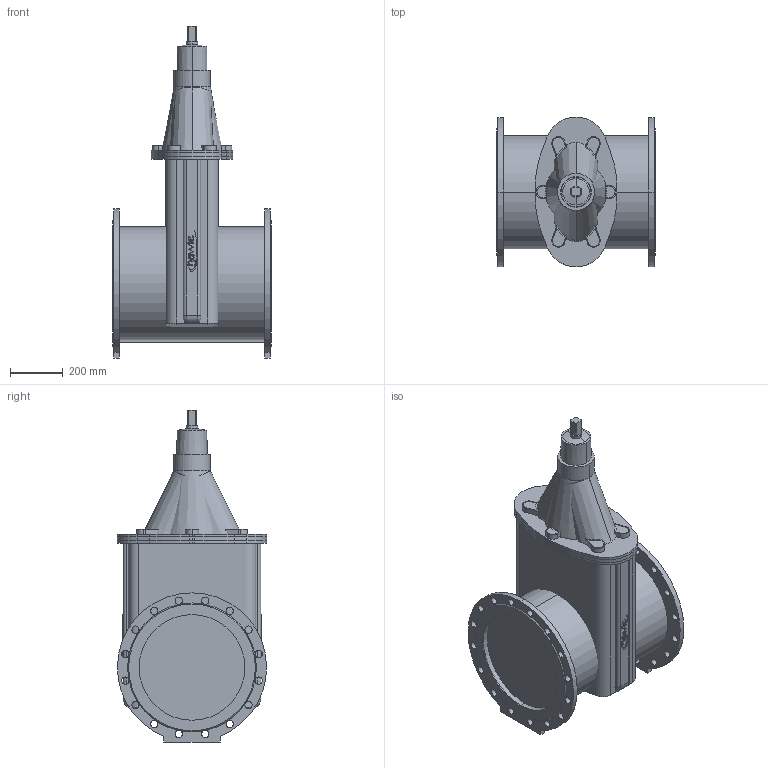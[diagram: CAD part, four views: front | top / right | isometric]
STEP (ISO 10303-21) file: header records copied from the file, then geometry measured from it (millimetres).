
FILE_DESCRIPTION(('STEP AP214'),'1');
FILE_NAME('S:/EK/USER/CAT6/3DHomepage/4700E2/4700E2-PN10-DN400.STP','2012-04-23T14:48:30',(' '),(' '),'Spatial InterOp 3D',' ',' ');
FILE_SCHEMA(('automotive_design'));
Length unit declared in the file: millimetre
Products named in the file (50): 3D-Objekt
Bounding box: 600 x 567.8 x 1257.5 mm (x, y, z)
Volume: 168471765.9 mm3; surface area: 4954878.7 mm2
Topology: 50 solids, 50 shells, 516 faces, 1242 edges, 828 vertices
Faces by surface type: plane 248, cylinder 244, cone 14, torus 6, bspline 4
Entity records: 20712 total; most frequent: DIRECTION 2908, CARTESIAN_POINT 2704, ORIENTED_EDGE 2484, EDGE_CURVE 1242, AXIS2_PLACEMENT_3D 1104, VERTEX_POINT 828, LINE 700, VECTOR 700
